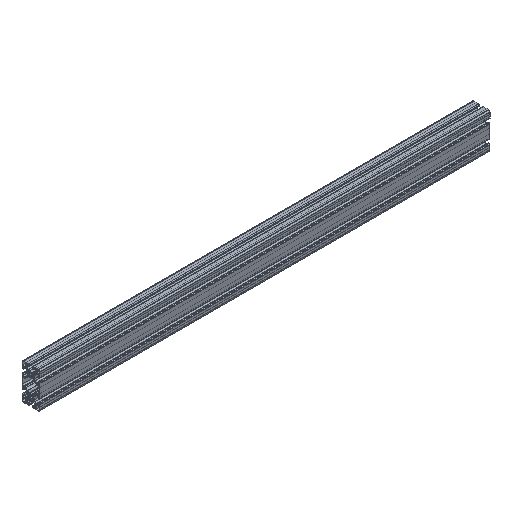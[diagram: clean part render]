
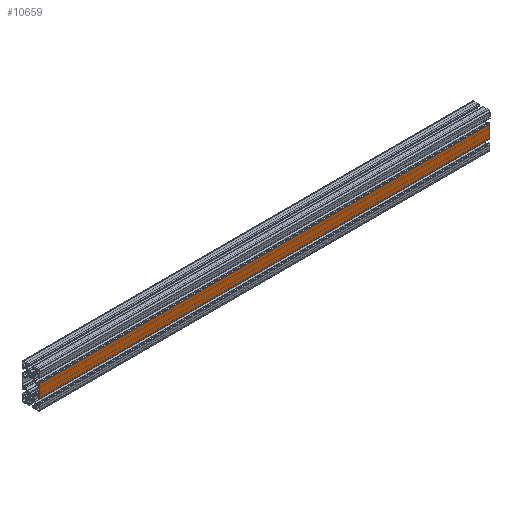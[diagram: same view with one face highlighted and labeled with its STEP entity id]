
A CAD part, isometric view. The second image highlights one B-rep face of the part: STEP entity #10659.
In plain terms, the highlighted planar face has unit normal (0, -1, 0).
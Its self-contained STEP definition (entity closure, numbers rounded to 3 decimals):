
#427 = EDGE_CURVE ( 'NONE', #1146, #12210, #3027, .T. ) ;
#559 = EDGE_CURVE ( 'NONE', #7827, #2615, #877, .T. ) ;
#877 = LINE ( 'NONE', #11107, #1077 ) ;
#919 = DIRECTION ( 'NONE',  ( -1., 0., 0. ) ) ;
#964 = CARTESIAN_POINT ( 'NONE',  ( 1000., -20., -14.5 ) ) ;
#1077 = VECTOR ( 'NONE', #11161, 1000. ) ;
#1146 = VERTEX_POINT ( 'NONE', #4214 ) ;
#2187 = VECTOR ( 'NONE', #9737, 1000. ) ;
#2520 = EDGE_CURVE ( 'NONE', #1146, #7827, #10123, .T. ) ;
#2615 = VERTEX_POINT ( 'NONE', #5652 ) ;
#2791 = AXIS2_PLACEMENT_3D ( 'NONE', #6552, #6374, #6279 ) ;
#3027 = LINE ( 'NONE', #9422, #2187 ) ;
#3193 = EDGE_CURVE ( 'NONE', #12210, #2615, #13046, .T. ) ;
#3198 = ORIENTED_EDGE ( 'NONE', *, *, #427, .F. ) ;
#3217 = ORIENTED_EDGE ( 'NONE', *, *, #3193, .F. ) ;
#3306 = ORIENTED_EDGE ( 'NONE', *, *, #559, .T. ) ;
#3947 = EDGE_LOOP ( 'NONE', ( #3306, #3217, #3198, #6750 ) ) ;
#4214 = CARTESIAN_POINT ( 'NONE',  ( 1000., -20., 14.5 ) ) ;
#5652 = CARTESIAN_POINT ( 'NONE',  ( 0., -20., -14.5 ) ) ;
#6279 = DIRECTION ( 'NONE',  ( 0., 0., 1. ) ) ;
#6374 = DIRECTION ( 'NONE',  ( 0., 1., 0. ) ) ;
#6552 = CARTESIAN_POINT ( 'NONE',  ( 1000., -20., -14.5 ) ) ;
#6750 = ORIENTED_EDGE ( 'NONE', *, *, #2520, .T. ) ;
#6771 = PLANE ( 'NONE',  #2791 ) ;
#7302 = DIRECTION ( 'NONE',  ( -1., 0., 0. ) ) ;
#7674 = CARTESIAN_POINT ( 'NONE',  ( 1000., -20., 14.5 ) ) ;
#7827 = VERTEX_POINT ( 'NONE', #10457 ) ;
#8359 = VECTOR ( 'NONE', #7302, 1000. ) ;
#8378 = FACE_OUTER_BOUND ( 'NONE', #3947, .T. ) ;
#9422 = CARTESIAN_POINT ( 'NONE',  ( 1000., -20., -14.5 ) ) ;
#9737 = DIRECTION ( 'NONE',  ( 0., 0., -1. ) ) ;
#10123 = LINE ( 'NONE', #7674, #8359 ) ;
#10457 = CARTESIAN_POINT ( 'NONE',  ( 0., -20., 14.5 ) ) ;
#10659 = ADVANCED_FACE ( 'NONE', ( #8378 ), #6771, .F. ) ;
#11107 = CARTESIAN_POINT ( 'NONE',  ( 0., -20., -14.5 ) ) ;
#11161 = DIRECTION ( 'NONE',  ( 0., 0., -1. ) ) ;
#12210 = VERTEX_POINT ( 'NONE', #13647 ) ;
#13046 = LINE ( 'NONE', #964, #13217 ) ;
#13217 = VECTOR ( 'NONE', #919, 1000. ) ;
#13647 = CARTESIAN_POINT ( 'NONE',  ( 1000., -20., -14.5 ) ) ;
